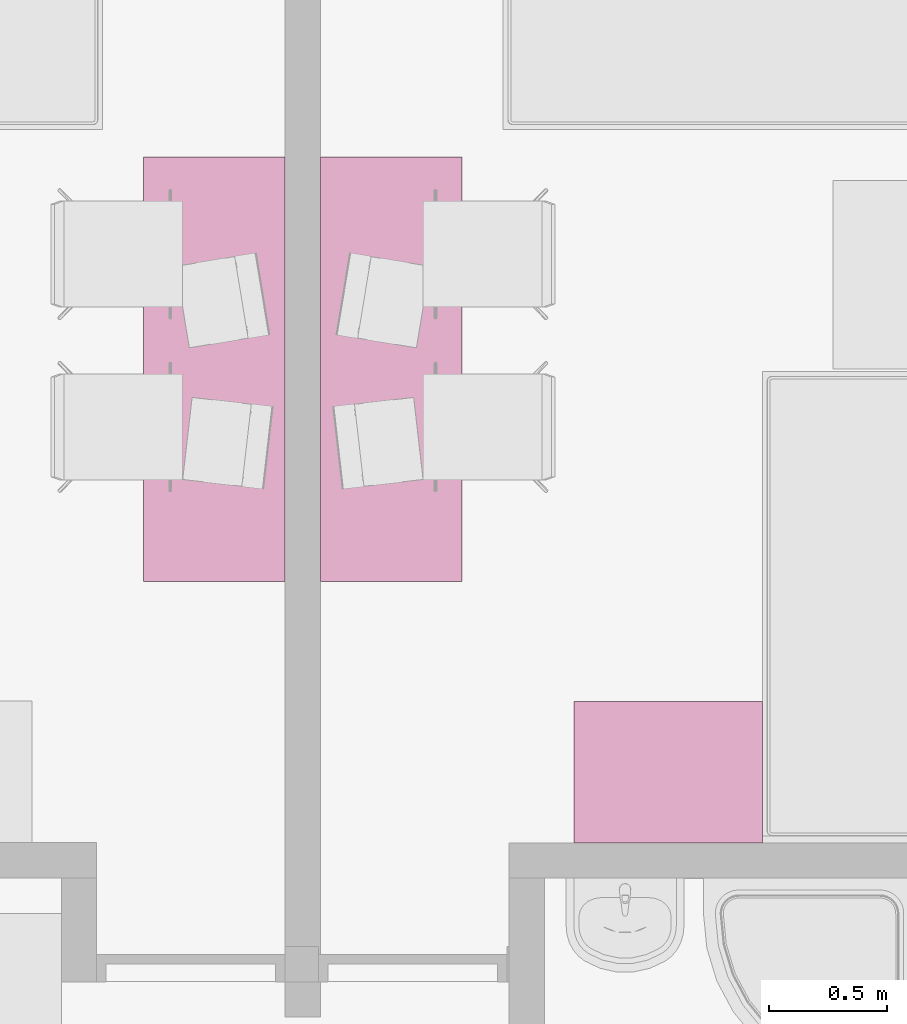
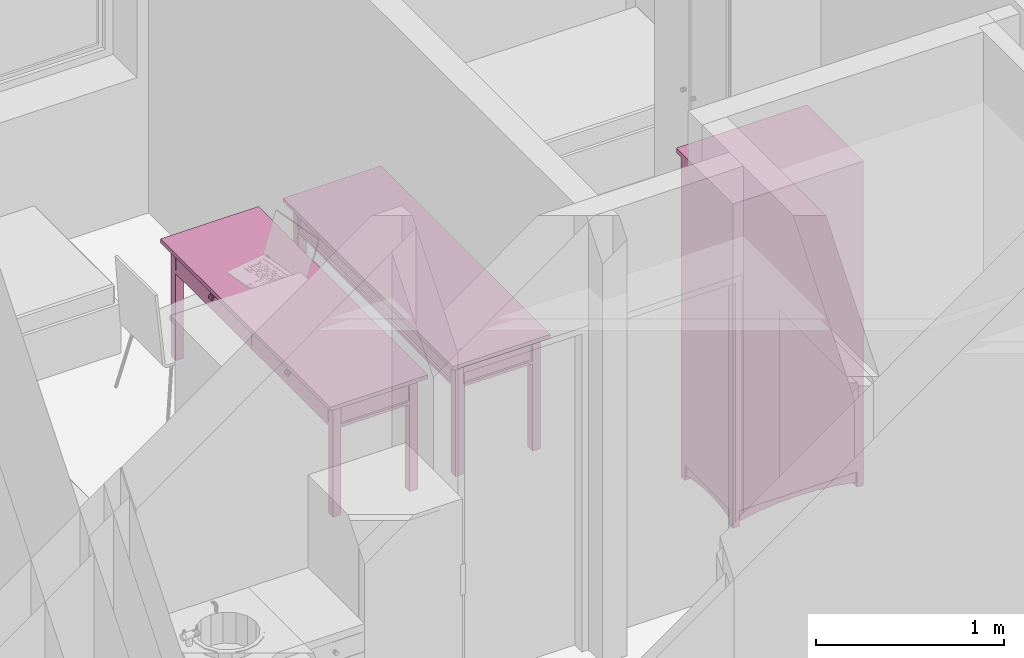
# One storey, part 134 of 165: 3 furnishings.
"""IFC2X3 building model written with IfcOpenShell, lengths in millimetres."""

from ifc_helpers import new_model, entity, si_unit, converted_unit, money_unit, direction, frame, origin_with_axes, place, context, subcontext, project, spatial, faceted_brep, source, transform, mapped, material, material_list, type_object, element, save


model = new_model("IFC2X3")

# Units and contexts
model_context = context("Model", 3, precision=1e-05, world=origin_with_axes(), true_north=direction((0.0, 1.0)))
body_context = subcontext(model_context, "Body", "Model", "MODEL_VIEW")
ifc_project = project(units=[si_unit("LENGTHUNIT", "METRE", prefix="MILLI"), si_unit("AREAUNIT", "SQUARE_METRE"), si_unit("VOLUMEUNIT", "CUBIC_METRE"), converted_unit("PLANEANGLEUNIT", "DEGREE", entity("IfcPlaneAngleMeasure", 0.0174532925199), si_unit("PLANEANGLEUNIT", "RADIAN"), dimensions=[0, 0, 0, 0, 0, 0, 0]), si_unit("SOLIDANGLEUNIT", "STERADIAN"), money_unit("USD"), converted_unit("TIMEUNIT", "Year", entity("IfcTimeMeasure", 31556926.0), si_unit("TIMEUNIT", "SECOND"), dimensions=[0, 0, 0, 0, 0, 0, 0]), si_unit("MASSUNIT", "GRAM"), si_unit("THERMODYNAMICTEMPERATUREUNIT", "DEGREE_CELSIUS"), si_unit("LUMINOUSINTENSITYUNIT", "LUMEN")], contexts=[model_context])

# Site, building, storey
site_placement = place(None, origin_with_axes())
site = spatial("IfcSite", under=ifc_project, at=site_placement, Name="Site", CompositionType="ELEMENT")
building_placement = place(site_placement, origin_with_axes())
building = spatial("IfcBuilding", under=site, at=building_placement, Name="Building", CompositionType="ELEMENT")
storey_placement = place(building_placement, frame((0.0, 0.0, 6300.0), z_axis=(0.0, 0.0, 1.0), x_axis=(1.0, 0.0, 0.0)))
storey = spatial("IfcBuildingStorey", under=building, at=storey_placement, Name="4KORRUS", CompositionType="ELEMENT", Elevation=6300.0)

# Furnishings
ifc_material = material(Name="Background")
ifc_material_list = material_list([ifc_material])
furnishing_element_type_1 = type_object("IfcFurnishingElementType", Name="Cupboard 19")
shared_shape_1 = source(origin_with_axes(), body_context, "Body", "Brep", [
    faceted_brep([(-780.0, 600.0, 120.0), (-780.0, 580.0, 120.0), (-780.0, 580.0, 2050.0), (-780.0, 600.0, 2050.0), (-20.0, 600.0, 120.0), (-20.0, 580.0, 120.0), (-20.0, 580.0, 2050.0), (-20.0, 600.0, 2050.0)], [[[0, 1, 2, 3]], [[0, 4, 5, 1]], [[1, 5, 6, 2]], [[3, 2, 6, 7]], [[4, 0, 3, 7]], [[5, 4, 7, 6]]]),
    faceted_brep([(0.0, 50.0, 100.0), (-20.0, 50.0, 100.0), (-20.0, 600.0, 100.0), (0.0, 600.0, 100.0), (0.0, 50.0, 2070.0), (-20.0, 50.0, 2070.0), (-20.0, 600.0, 2070.0), (0.0, 600.0, 2070.0)], [[[0, 1, 2, 3]], [[1, 0, 4, 5]], [[2, 1, 5, 6]], [[3, 2, 6, 7]], [[0, 3, 7, 4]], [[5, 4, 7, 6]]]),
    faceted_brep([(-780.0, 50.0, 100.0), (-800.0, 50.0, 100.0), (-800.0, 600.0, 100.0), (-780.0, 600.0, 100.0), (-780.0, 50.0, 2070.0), (-800.0, 50.0, 2070.0), (-800.0, 600.0, 2070.0), (-780.0, 600.0, 2070.0)], [[[0, 1, 2, 3]], [[1, 0, 4, 5]], [[2, 1, 5, 6]], [[3, 2, 6, 7]], [[0, 3, 7, 4]], [[5, 4, 7, 6]]]),
    faceted_brep([(-20.0, 50.0, 100.0), (-780.0, 50.0, 100.0), (-780.0, 600.0, 100.0), (-20.0, 600.0, 100.0), (-20.0, 50.0, 120.0), (-780.0, 50.0, 120.0), (-780.0, 600.0, 120.0), (-20.0, 600.0, 120.0)], [[[0, 1, 2, 3]], [[1, 0, 4, 5]], [[2, 1, 5, 6]], [[3, 2, 6, 7]], [[0, 3, 7, 4]], [[5, 4, 7, 6]]]),
    faceted_brep([(-20.0, 50.0, 2050.0), (-780.0, 50.0, 2050.0), (-780.0, 600.0, 2050.0), (-20.0, 600.0, 2050.0), (-20.0, 50.0, 2070.0), (-780.0, 50.0, 2070.0), (-780.0, 600.0, 2070.0), (-20.0, 600.0, 2070.0)], [[[0, 1, 2, 3]], [[1, 0, 4, 5]], [[2, 1, 5, 6]], [[3, 2, 6, 7]], [[0, 3, 7, 4]], [[5, 4, 7, 6]]]),
    faceted_brep([(0.0, 600.0, 2070.0), (0.0, 600.0, 2100.0), (0.0, 0.0, 2100.0), (0.0, 0.0, 2070.0), (-800.0, 600.0, 2070.0), (-800.0, 600.0, 2100.0), (-800.0, 0.0, 2100.0), (-800.0, 0.0, 2070.0)], [[[0, 1, 2, 3]], [[4, 5, 1, 0]], [[1, 5, 6, 2]], [[3, 2, 6, 7]], [[0, 3, 7, 4]], [[7, 6, 5, 4]]]),
    faceted_brep([(-760.0, 590.0, 25.0), (-640.962, 590.0, 45.8), (-640.962, 570.0, 45.8), (-760.0, 570.0, 25.0), (-760.0, 590.0, 100.0), (-40.0, 590.0, 100.0), (-40.0, 590.0, 25.0), (-159.038, 590.0, 45.8), (-279.23, 590.0, 58.32), (-400.0, 590.0, 62.5), (-520.77, 590.0, 58.32), (-520.77, 570.0, 58.32), (-400.0, 570.0, 62.5), (-279.23, 570.0, 58.32), (-159.038, 570.0, 45.8), (-40.0, 570.0, 25.0), (-40.0, 570.0, 100.0), (-760.0, 570.0, 100.0)], [[[0, 1, 2, 3]], [[0, 4, 5, 6, 7, 8, 9, 10, 1]], [[1, 10, 11, 2]], [[3, 2, 11, 12, 13, 14, 15, 16, 17]], [[4, 0, 3, 17]], [[5, 4, 17, 16]], [[6, 5, 16, 15]], [[7, 6, 15, 14]], [[8, 7, 14, 13]], [[9, 8, 13, 12]], [[10, 9, 12, 11]]]),
    faceted_brep([(-760.0, 80.0, 25.0), (-640.962, 80.0, 45.8), (-640.962, 60.0, 45.8), (-760.0, 60.0, 25.0), (-760.0, 80.0, 100.0), (-40.0, 80.0, 100.0), (-40.0, 80.0, 25.0), (-159.038, 80.0, 45.8), (-279.23, 80.0, 58.32), (-400.0, 80.0, 62.5), (-520.77, 80.0, 58.32), (-520.77, 60.0, 58.32), (-400.0, 60.0, 62.5), (-279.23, 60.0, 58.32), (-159.038, 60.0, 45.8), (-40.0, 60.0, 25.0), (-40.0, 60.0, 100.0), (-760.0, 60.0, 100.0)], [[[0, 1, 2, 3]], [[0, 4, 5, 6, 7, 8, 9, 10, 1]], [[1, 10, 11, 2]], [[3, 2, 11, 12, 13, 14, 15, 16, 17]], [[4, 0, 3, 17]], [[5, 4, 17, 16]], [[6, 5, 16, 15]], [[7, 6, 15, 14]], [[8, 7, 14, 13]], [[9, 8, 13, 12]], [[10, 9, 12, 11]]]),
    faceted_brep([(-790.0, 90.0, 25.0), (-790.0, 141.266, 38.072), (-770.0, 141.266, 38.072), (-770.0, 90.0, 25.0), (-790.0, 90.0, 100.0), (-790.0, 560.0, 100.0), (-790.0, 560.0, 25.0), (-790.0, 508.734, 38.072), (-790.0, 456.752, 47.92), (-790.0, 404.257, 54.508), (-790.0, 351.453, 57.808), (-790.0, 298.547, 57.808), (-790.0, 245.743, 54.508), (-790.0, 193.248, 47.92), (-770.0, 193.248, 47.92), (-770.0, 245.743, 54.508), (-770.0, 298.547, 57.808), (-770.0, 351.453, 57.808), (-770.0, 404.257, 54.508), (-770.0, 456.752, 47.92), (-770.0, 508.734, 38.072), (-770.0, 560.0, 25.0), (-770.0, 560.0, 100.0), (-770.0, 90.0, 100.0)], [[[0, 1, 2, 3]], [[0, 4, 5, 6, 7, 8, 9, 10, 11, 12, 13, 1]], [[1, 13, 14, 2]], [[3, 2, 14, 15, 16, 17, 18, 19, 20, 21, 22, 23]], [[4, 0, 3, 23]], [[5, 4, 23, 22]], [[6, 5, 22, 21]], [[7, 6, 21, 20]], [[8, 7, 20, 19]], [[9, 8, 19, 18]], [[10, 9, 18, 17]], [[11, 10, 17, 16]], [[12, 11, 16, 15]], [[13, 12, 15, 14]]]),
    faceted_brep([(-30.0, 90.0, 25.0), (-30.0, 141.266, 38.072), (-10.0, 141.266, 38.072), (-10.0, 90.0, 25.0), (-30.0, 90.0, 100.0), (-30.0, 560.0, 100.0), (-30.0, 560.0, 25.0), (-30.0, 508.734, 38.072), (-30.0, 456.752, 47.92), (-30.0, 404.257, 54.508), (-30.0, 351.453, 57.808), (-30.0, 298.547, 57.808), (-30.0, 245.743, 54.508), (-30.0, 193.248, 47.92), (-10.0, 193.248, 47.92), (-10.0, 245.743, 54.508), (-10.0, 298.547, 57.808), (-10.0, 351.453, 57.808), (-10.0, 404.257, 54.508), (-10.0, 456.752, 47.92), (-10.0, 508.734, 38.072), (-10.0, 560.0, 25.0), (-10.0, 560.0, 100.0), (-10.0, 90.0, 100.0)], [[[0, 1, 2, 3]], [[0, 4, 5, 6, 7, 8, 9, 10, 11, 12, 13, 1]], [[1, 13, 14, 2]], [[3, 2, 14, 15, 16, 17, 18, 19, 20, 21, 22, 23]], [[4, 0, 3, 23]], [[5, 4, 23, 22]], [[6, 5, 22, 21]], [[7, 6, 21, 20]], [[8, 7, 20, 19]], [[9, 8, 19, 18]], [[10, 9, 18, 17]], [[11, 10, 17, 16]], [[12, 11, 16, 15]], [[13, 12, 15, 14]]]),
    faceted_brep([(-760.0, 560.0, 0.0), (-760.0, 600.0, 0.0), (-760.0, 600.0, 100.0), (-760.0, 560.0, 100.0), (-800.0, 560.0, 0.0), (-800.0, 600.0, 0.0), (-800.0, 600.0, 100.0), (-800.0, 560.0, 100.0)], [[[0, 1, 2, 3]], [[0, 4, 5, 1]], [[1, 5, 6, 2]], [[3, 2, 6, 7]], [[4, 0, 3, 7]], [[5, 4, 7, 6]]]),
    faceted_brep([(0.0, 560.0, 0.0), (0.0, 600.0, 0.0), (0.0, 600.0, 100.0), (0.0, 560.0, 100.0), (-40.0, 560.0, 0.0), (-40.0, 600.0, 0.0), (-40.0, 600.0, 100.0), (-40.0, 560.0, 100.0)], [[[0, 1, 2, 3]], [[0, 4, 5, 1]], [[1, 5, 6, 2]], [[3, 2, 6, 7]], [[4, 0, 3, 7]], [[5, 4, 7, 6]]]),
    faceted_brep([(-760.0, 50.0, 0.0), (-760.0, 90.0, 0.0), (-760.0, 90.0, 100.0), (-760.0, 50.0, 100.0), (-800.0, 50.0, 0.0), (-800.0, 90.0, 0.0), (-800.0, 90.0, 100.0), (-800.0, 50.0, 100.0)], [[[0, 1, 2, 3]], [[0, 4, 5, 1]], [[1, 5, 6, 2]], [[3, 2, 6, 7]], [[4, 0, 3, 7]], [[5, 4, 7, 6]]]),
    faceted_brep([(0.0, 50.0, 0.0), (0.0, 90.0, 0.0), (0.0, 90.0, 100.0), (0.0, 50.0, 100.0), (-40.0, 50.0, 0.0), (-40.0, 90.0, 0.0), (-40.0, 90.0, 100.0), (-40.0, 50.0, 100.0)], [[[0, 1, 2, 3]], [[0, 4, 5, 1]], [[1, 5, 6, 2]], [[3, 2, 6, 7]], [[4, 0, 3, 7]], [[5, 4, 7, 6]]]),
    faceted_brep([(-780.0, 580.0, 587.5), (-780.0, 50.0, 587.5), (-780.0, 50.0, 607.5), (-780.0, 580.0, 607.5), (-20.0, 580.0, 587.5), (-20.0, 50.0, 587.5), (-20.0, 50.0, 607.5), (-20.0, 580.0, 607.5)], [[[0, 1, 2, 3]], [[0, 4, 5, 1]], [[1, 5, 6, 2]], [[3, 2, 6, 7]], [[4, 0, 3, 7]], [[5, 4, 7, 6]]]),
    faceted_brep([(-780.0, 580.0, 1075.0), (-780.0, 50.0, 1075.0), (-780.0, 50.0, 1095.0), (-780.0, 580.0, 1095.0), (-20.0, 580.0, 1075.0), (-20.0, 50.0, 1075.0), (-20.0, 50.0, 1095.0), (-20.0, 580.0, 1095.0)], [[[0, 1, 2, 3]], [[0, 4, 5, 1]], [[1, 5, 6, 2]], [[3, 2, 6, 7]], [[4, 0, 3, 7]], [[5, 4, 7, 6]]]),
    faceted_brep([(-780.0, 580.0, 1562.5), (-780.0, 50.0, 1562.5), (-780.0, 50.0, 1582.5), (-780.0, 580.0, 1582.5), (-20.0, 580.0, 1562.5), (-20.0, 50.0, 1562.5), (-20.0, 50.0, 1582.5), (-20.0, 580.0, 1582.5)], [[[0, 1, 2, 3]], [[0, 4, 5, 1]], [[1, 5, 6, 2]], [[3, 2, 6, 7]], [[4, 0, 3, 7]], [[5, 4, 7, 6]]]),
    faceted_brep([(-789.5, 50.0, 110.5), (-789.5, 50.0, 2059.5), (-400.5, 50.0, 2059.5), (-400.5, 50.0, 110.5), (-789.5, 40.0, 110.5), (-789.5, 40.0, 2059.5), (-400.5, 40.0, 2059.5), (-400.5, 40.0, 110.5), (-779.5, 30.0, 120.5), (-779.5, 30.0, 2049.5), (-410.5, 30.0, 2049.5), (-410.5, 30.0, 120.5)], [[[0, 1, 2, 3]], [[1, 0, 4, 5]], [[2, 1, 5, 6]], [[3, 2, 6, 7]], [[0, 3, 7, 4]], [[5, 4, 8, 9]], [[6, 5, 9, 10]], [[7, 6, 10, 11]], [[4, 7, 11, 8]], [[10, 9, 8, 11]]]),
    faceted_brep([(-399.5, 50.0, 110.5), (-399.5, 50.0, 2059.5), (-10.5, 50.0, 2059.5), (-10.5, 50.0, 110.5), (-399.5, 40.0, 110.5), (-399.5, 40.0, 2059.5), (-10.5, 40.0, 2059.5), (-10.5, 40.0, 110.5), (-389.5, 30.0, 120.5), (-389.5, 30.0, 2049.5), (-20.5, 30.0, 2049.5), (-20.5, 30.0, 120.5)], [[[0, 1, 2, 3]], [[1, 0, 4, 5]], [[2, 1, 5, 6]], [[3, 2, 6, 7]], [[0, 3, 7, 4]], [[5, 4, 8, 9]], [[6, 5, 9, 10]], [[7, 6, 10, 11]], [[4, 7, 11, 8]], [[10, 9, 8, 11]]]),
    faceted_brep([(-339.608, 30.0, 954.0), (-344.0, 30.0, 949.608), (-350.0, 30.0, 948.0), (-356.0, 30.0, 949.608), (-360.392, 30.0, 954.0), (-362.0, 30.0, 960.0), (-360.392, 30.0, 966.0), (-356.0, 30.0, 970.392), (-350.0, 30.0, 972.0), (-344.0, 30.0, 970.392), (-339.608, 30.0, 966.0), (-338.0, 30.0, 960.0), (-339.608, 5.0, 954.0), (-344.0, 5.0, 949.608), (-350.0, 5.0, 948.0), (-356.0, 5.0, 949.608), (-360.392, 5.0, 954.0), (-362.0, 5.0, 960.0), (-360.392, 5.0, 966.0), (-356.0, 5.0, 970.392), (-350.0, 5.0, 972.0), (-344.0, 5.0, 970.392), (-339.608, 5.0, 966.0), (-338.0, 5.0, 960.0)], [[[0, 1, 2, 3, 4, 5, 6, 7, 8, 9, 10, 11]], [[1, 0, 12, 13]], [[2, 1, 13, 14]], [[3, 2, 14, 15]], [[4, 3, 15, 16]], [[5, 4, 16, 17]], [[6, 5, 17, 18]], [[7, 6, 18, 19]], [[8, 7, 19, 20]], [[9, 8, 20, 21]], [[10, 9, 21, 22]], [[11, 10, 22, 23]], [[0, 11, 23, 12]], [[12, 23, 22, 21, 20, 19, 18, 17, 16, 15, 14, 13]]]),
    faceted_brep([(-460.392, 30.0, 954.0), (-462.0, 30.0, 960.0), (-460.392, 30.0, 966.0), (-456.0, 30.0, 970.392), (-450.0, 30.0, 972.0), (-444.0, 30.0, 970.392), (-439.608, 30.0, 966.0), (-438.0, 30.0, 960.0), (-439.608, 30.0, 954.0), (-444.0, 30.0, 949.608), (-450.0, 30.0, 948.0), (-456.0, 30.0, 949.608), (-460.392, 5.0, 954.0), (-462.0, 5.0, 960.0), (-460.392, 5.0, 966.0), (-456.0, 5.0, 970.392), (-450.0, 5.0, 972.0), (-444.0, 5.0, 970.392), (-439.608, 5.0, 966.0), (-438.0, 5.0, 960.0), (-439.608, 5.0, 954.0), (-444.0, 5.0, 949.608), (-450.0, 5.0, 948.0), (-456.0, 5.0, 949.608)], [[[0, 1, 2, 3, 4, 5, 6, 7, 8, 9, 10, 11]], [[0, 12, 13, 1]], [[1, 13, 14, 2]], [[2, 14, 15, 3]], [[3, 15, 16, 4]], [[4, 16, 17, 5]], [[5, 17, 18, 6]], [[6, 18, 19, 7]], [[7, 19, 20, 8]], [[8, 20, 21, 9]], [[9, 21, 22, 10]], [[10, 22, 23, 11]], [[11, 23, 12, 0]], [[12, 23, 22, 21, 20, 19, 18, 17, 16, 15, 14, 13]]]),
])
furnishing_1_placement = place(storey_placement, frame((4009.70329669, -8617.37850445, 0.0), z_axis=(0.0, 0.0, 1.0), x_axis=(-1.0, 0.0, 0.0)))
element("IfcFurnishingElement", 1, at=furnishing_1_placement, inside=storey, type_object=furnishing_element_type_1, material=ifc_material_list, Name="FU - 014", context=body_context, shape_type="MappedRepresentation", body=[
    mapped(shared_shape_1, transform((0.0, 0.0, 0.0))),
])
furnishing_element_type_2 = type_object("IfcFurnishingElementType", Name="Rectangular Table 01 19")
shared_shape_2 = source(origin_with_axes(), body_context, "Body", "Brep", [
    faceted_brep([(-90.0, 40.0, 0.0), (-90.0, 90.0, 0.0), (-40.0, 90.0, 0.0), (-40.0, 40.0, 0.0), (-90.0, 40.0, 725.0), (-90.0, 90.0, 725.0), (-40.0, 90.0, 725.0), (-40.0, 40.0, 725.0)], [[[0, 1, 2, 3]], [[0, 4, 5, 1]], [[1, 5, 6, 2]], [[2, 6, 7, 3]], [[3, 7, 4, 0]], [[7, 6, 5, 4]]]),
    faceted_brep([(-1760.0, 40.0, 0.0), (-1760.0, 90.0, 0.0), (-1710.0, 90.0, 0.0), (-1710.0, 40.0, 0.0), (-1760.0, 40.0, 725.0), (-1760.0, 90.0, 725.0), (-1710.0, 90.0, 725.0), (-1710.0, 40.0, 725.0)], [[[0, 1, 2, 3]], [[0, 4, 5, 1]], [[1, 5, 6, 2]], [[2, 6, 7, 3]], [[3, 7, 4, 0]], [[7, 6, 5, 4]]]),
    faceted_brep([(-90.0, 510.0, 0.0), (-90.0, 560.0, 0.0), (-40.0, 560.0, 0.0), (-40.0, 510.0, 0.0), (-90.0, 510.0, 725.0), (-90.0, 560.0, 725.0), (-40.0, 560.0, 725.0), (-40.0, 510.0, 725.0)], [[[0, 1, 2, 3]], [[0, 4, 5, 1]], [[1, 5, 6, 2]], [[2, 6, 7, 3]], [[3, 7, 4, 0]], [[7, 6, 5, 4]]]),
    faceted_brep([(-1760.0, 510.0, 0.0), (-1760.0, 560.0, 0.0), (-1710.0, 560.0, 0.0), (-1710.0, 510.0, 0.0), (-1760.0, 510.0, 725.0), (-1760.0, 560.0, 725.0), (-1710.0, 560.0, 725.0), (-1710.0, 510.0, 725.0)], [[[0, 1, 2, 3]], [[0, 4, 5, 1]], [[1, 5, 6, 2]], [[2, 6, 7, 3]], [[3, 7, 4, 0]], [[7, 6, 5, 4]]]),
    faceted_brep([(-1760.0, 40.0, 565.0), (-1760.0, 560.0, 565.0), (-40.0, 560.0, 565.0), (-40.0, 40.0, 565.0), (-1760.0, 40.0, 585.0), (-1760.0, 560.0, 585.0), (-40.0, 560.0, 585.0), (-40.0, 40.0, 585.0)], [[[0, 1, 2, 3]], [[0, 4, 5, 1]], [[1, 5, 6, 2]], [[2, 6, 7, 3]], [[3, 7, 4, 0]], [[7, 6, 5, 4]]]),
    faceted_brep([(-1710.0, 52.5, 585.0), (-1710.0, 77.5, 585.0), (-90.0, 77.5, 585.0), (-90.0, 52.5, 585.0), (-1710.0, 52.5, 745.0), (-1710.0, 77.5, 745.0), (-90.0, 77.5, 745.0), (-90.0, 52.5, 745.0)], [[[0, 1, 2, 3]], [[0, 4, 5, 1]], [[1, 5, 6, 2]], [[2, 6, 7, 3]], [[3, 7, 4, 0]], [[7, 6, 5, 4]]]),
    faceted_brep([(-77.5, 90.0, 585.0), (-77.5, 510.0, 585.0), (-52.5, 510.0, 585.0), (-52.5, 90.0, 585.0), (-77.5, 90.0, 745.0), (-77.5, 510.0, 745.0), (-52.5, 510.0, 745.0), (-52.5, 90.0, 745.0)], [[[0, 1, 2, 3]], [[0, 4, 5, 1]], [[1, 5, 6, 2]], [[2, 6, 7, 3]], [[3, 7, 4, 0]], [[7, 6, 5, 4]]]),
    faceted_brep([(-90.0, 547.5, 585.0), (-90.0, 522.5, 585.0), (-1710.0, 522.5, 585.0), (-1710.0, 547.5, 585.0), (-90.0, 547.5, 745.0), (-90.0, 522.5, 745.0), (-1710.0, 522.5, 745.0), (-1710.0, 547.5, 745.0)], [[[0, 1, 2, 3]], [[0, 4, 5, 1]], [[1, 5, 6, 2]], [[2, 6, 7, 3]], [[3, 7, 4, 0]], [[7, 6, 5, 4]]]),
    faceted_brep([(-1722.5, 510.0, 585.0), (-1722.5, 90.0, 585.0), (-1747.5, 90.0, 585.0), (-1747.5, 510.0, 585.0), (-1722.5, 510.0, 745.0), (-1722.5, 90.0, 745.0), (-1747.5, 90.0, 745.0), (-1747.5, 510.0, 745.0)], [[[0, 1, 2, 3]], [[0, 4, 5, 1]], [[1, 5, 6, 2]], [[2, 6, 7, 3]], [[3, 7, 4, 0]], [[7, 6, 5, 4]]]),
    faceted_brep([(-897.5, 40.0, 585.0), (-897.5, 60.0, 585.0), (-95.0, 60.0, 585.0), (-95.0, 40.0, 585.0), (-897.5, 40.0, 745.0), (-897.5, 60.0, 745.0), (-95.0, 60.0, 745.0), (-95.0, 40.0, 745.0)], [[[0, 1, 2, 3]], [[0, 4, 5, 1]], [[1, 5, 6, 2]], [[2, 6, 7, 3]], [[3, 7, 4, 0]], [[7, 6, 5, 4]]]),
    faceted_brep([(-1705.0, 40.0, 585.0), (-1705.0, 60.0, 585.0), (-902.5, 60.0, 585.0), (-902.5, 40.0, 585.0), (-1705.0, 40.0, 745.0), (-1705.0, 60.0, 745.0), (-902.5, 60.0, 745.0), (-902.5, 40.0, 745.0)], [[[0, 1, 2, 3]], [[0, 4, 5, 1]], [[1, 5, 6, 2]], [[2, 6, 7, 3]], [[3, 7, 4, 0]], [[7, 6, 5, 4]]]),
    faceted_brep([(-504.91, 40.0, 660.0), (-506.25, 40.0, 665.0), (-504.91, 40.0, 670.0), (-501.25, 40.0, 673.66), (-496.25, 40.0, 675.0), (-491.25, 40.0, 673.66), (-487.59, 40.0, 670.0), (-486.25, 40.0, 665.0), (-487.59, 40.0, 660.0), (-491.25, 40.0, 656.34), (-496.25, 40.0, 655.0), (-501.25, 40.0, 656.34), (-504.91, 25.0, 660.0), (-506.25, 25.0, 665.0), (-504.91, 25.0, 670.0), (-501.25, 25.0, 673.66), (-496.25, 25.0, 675.0), (-491.25, 25.0, 673.66), (-487.59, 25.0, 670.0), (-486.25, 25.0, 665.0), (-487.59, 25.0, 660.0), (-491.25, 25.0, 656.34), (-496.25, 25.0, 655.0), (-501.25, 25.0, 656.34)], [[[0, 1, 2, 3, 4, 5, 6, 7, 8, 9, 10, 11]], [[0, 12, 13, 1]], [[1, 13, 14, 2]], [[2, 14, 15, 3]], [[3, 15, 16, 4]], [[4, 16, 17, 5]], [[5, 17, 18, 6]], [[6, 18, 19, 7]], [[7, 19, 20, 8]], [[8, 20, 21, 9]], [[9, 21, 22, 10]], [[10, 22, 23, 11]], [[11, 23, 12, 0]], [[12, 23, 22, 21, 20, 19, 18, 17, 16, 15, 14, 13]]]),
    faceted_brep([(-506.25, 12.01, 665.0), (-504.91, 12.01, 660.0), (-496.25, 10.0, 665.0), (-513.571, 17.5, 665.0), (-511.25, 17.5, 656.34), (-501.25, 12.01, 656.34), (-504.91, 12.01, 670.0), (-516.25, 25.0, 665.0), (-513.571, 25.0, 655.0), (-504.91, 17.5, 650.0), (-511.25, 17.5, 673.66), (-496.25, 12.01, 655.0), (-501.25, 12.01, 673.66), (-513.571, 25.0, 675.0), (-506.25, 25.0, 682.321), (-496.25, 25.0, 685.0), (-486.25, 25.0, 682.321), (-478.929, 25.0, 675.0), (-476.25, 25.0, 665.0), (-478.929, 25.0, 655.0), (-486.25, 25.0, 647.679), (-496.25, 25.0, 645.0), (-506.25, 25.0, 647.679), (-496.25, 17.5, 647.679), (-504.91, 17.5, 680.0), (-491.25, 12.01, 656.34), (-496.25, 12.01, 675.0), (-496.25, 17.5, 682.321), (-487.59, 17.5, 680.0), (-481.25, 17.5, 673.66), (-478.929, 17.5, 665.0), (-481.25, 17.5, 656.34), (-487.59, 17.5, 650.0), (-487.59, 12.01, 660.0), (-491.25, 12.01, 673.66), (-487.59, 12.01, 670.0), (-486.25, 12.01, 665.0)], [[[0, 1, 2]], [[3, 4, 1, 0]], [[1, 5, 2]], [[6, 0, 2]], [[7, 8, 4, 3]], [[4, 9, 5, 1]], [[10, 3, 0, 6]], [[5, 11, 2]], [[12, 6, 2]], [[8, 7, 13, 14, 15, 16, 17, 18, 19, 20, 21, 22]], [[8, 22, 9, 4]], [[13, 7, 3, 10]], [[9, 23, 11, 5]], [[24, 10, 6, 12]], [[11, 25, 2]], [[26, 12, 2]], [[14, 13, 10, 24]], [[15, 14, 24, 27]], [[16, 15, 27, 28]], [[17, 16, 28, 29]], [[18, 17, 29, 30]], [[19, 18, 30, 31]], [[20, 19, 31, 32]], [[21, 20, 32, 23]], [[22, 21, 23, 9]], [[23, 32, 25, 11]], [[27, 24, 12, 26]], [[25, 33, 2]], [[34, 26, 2]], [[28, 27, 26, 34]], [[29, 28, 34, 35]], [[30, 29, 35, 36]], [[31, 30, 36, 33]], [[32, 31, 33, 25]], [[33, 36, 2]], [[35, 34, 2]], [[36, 35, 2]]]),
    faceted_brep([(-1312.41, 40.0, 660.0), (-1313.75, 40.0, 665.0), (-1312.41, 40.0, 670.0), (-1308.75, 40.0, 673.66), (-1303.75, 40.0, 675.0), (-1298.75, 40.0, 673.66), (-1295.09, 40.0, 670.0), (-1293.75, 40.0, 665.0), (-1295.09, 40.0, 660.0), (-1298.75, 40.0, 656.34), (-1303.75, 40.0, 655.0), (-1308.75, 40.0, 656.34), (-1312.41, 25.0, 660.0), (-1313.75, 25.0, 665.0), (-1312.41, 25.0, 670.0), (-1308.75, 25.0, 673.66), (-1303.75, 25.0, 675.0), (-1298.75, 25.0, 673.66), (-1295.09, 25.0, 670.0), (-1293.75, 25.0, 665.0), (-1295.09, 25.0, 660.0), (-1298.75, 25.0, 656.34), (-1303.75, 25.0, 655.0), (-1308.75, 25.0, 656.34)], [[[0, 1, 2, 3, 4, 5, 6, 7, 8, 9, 10, 11]], [[0, 12, 13, 1]], [[1, 13, 14, 2]], [[2, 14, 15, 3]], [[3, 15, 16, 4]], [[4, 16, 17, 5]], [[5, 17, 18, 6]], [[6, 18, 19, 7]], [[7, 19, 20, 8]], [[8, 20, 21, 9]], [[9, 21, 22, 10]], [[10, 22, 23, 11]], [[11, 23, 12, 0]], [[12, 23, 22, 21, 20, 19, 18, 17, 16, 15, 14, 13]]]),
    faceted_brep([(-1313.75, 12.01, 665.0), (-1312.41, 12.01, 660.0), (-1303.75, 10.0, 665.0), (-1321.071, 17.5, 665.0), (-1318.75, 17.5, 656.34), (-1308.75, 12.01, 656.34), (-1312.41, 12.01, 670.0), (-1323.75, 25.0, 665.0), (-1321.071, 25.0, 655.0), (-1312.41, 17.5, 650.0), (-1318.75, 17.5, 673.66), (-1303.75, 12.01, 655.0), (-1308.75, 12.01, 673.66), (-1321.071, 25.0, 675.0), (-1313.75, 25.0, 682.321), (-1303.75, 25.0, 685.0), (-1293.75, 25.0, 682.321), (-1286.429, 25.0, 675.0), (-1283.75, 25.0, 665.0), (-1286.429, 25.0, 655.0), (-1293.75, 25.0, 647.679), (-1303.75, 25.0, 645.0), (-1313.75, 25.0, 647.679), (-1303.75, 17.5, 647.679), (-1312.41, 17.5, 680.0), (-1298.75, 12.01, 656.34), (-1303.75, 12.01, 675.0), (-1303.75, 17.5, 682.321), (-1295.09, 17.5, 680.0), (-1288.75, 17.5, 673.66), (-1286.429, 17.5, 665.0), (-1288.75, 17.5, 656.34), (-1295.09, 17.5, 650.0), (-1295.09, 12.01, 660.0), (-1298.75, 12.01, 673.66), (-1295.09, 12.01, 670.0), (-1293.75, 12.01, 665.0)], [[[0, 1, 2]], [[3, 4, 1, 0]], [[1, 5, 2]], [[6, 0, 2]], [[7, 8, 4, 3]], [[4, 9, 5, 1]], [[10, 3, 0, 6]], [[5, 11, 2]], [[12, 6, 2]], [[8, 7, 13, 14, 15, 16, 17, 18, 19, 20, 21, 22]], [[8, 22, 9, 4]], [[13, 7, 3, 10]], [[9, 23, 11, 5]], [[24, 10, 6, 12]], [[11, 25, 2]], [[26, 12, 2]], [[14, 13, 10, 24]], [[15, 14, 24, 27]], [[16, 15, 27, 28]], [[17, 16, 28, 29]], [[18, 17, 29, 30]], [[19, 18, 30, 31]], [[20, 19, 31, 32]], [[21, 20, 32, 23]], [[22, 21, 23, 9]], [[23, 32, 25, 11]], [[27, 24, 12, 26]], [[25, 33, 2]], [[34, 26, 2]], [[28, 27, 26, 34]], [[29, 28, 34, 35]], [[30, 29, 35, 36]], [[31, 30, 36, 33]], [[32, 31, 33, 25]], [[33, 36, 2]], [[35, 34, 2]], [[36, 35, 2]]]),
    faceted_brep([(-1800.0, 0.0, 725.0), (-1800.0, 600.0, 725.0), (0.0, 600.0, 725.0), (0.0, 0.0, 725.0), (-1800.0, 0.0, 750.0), (-1800.0, 600.0, 750.0), (0.0, 600.0, 750.0), (0.0, 0.0, 750.0)], [[[0, 1, 2, 3]], [[0, 4, 5, 1]], [[1, 5, 6, 2]], [[2, 6, 7, 3]], [[3, 7, 4, 0]], [[7, 6, 5, 4]]]),
])
furnishing_2_placement = place(storey_placement, frame((3535.15011628, -6307.26959818, 0.0), z_axis=(0.0, 0.0, 1.0), x_axis=(0.0, 1.0, 0.0)))
element("IfcFurnishingElement", 2, at=furnishing_2_placement, inside=storey, type_object=furnishing_element_type_2, material=ifc_material_list, Name="FU - 011", context=body_context, shape_type="MappedRepresentation", body=[
    mapped(shared_shape_2, transform((0.0, 0.0, 0.0))),
])
shared_shape_3 = source(origin_with_axes(), body_context, "Body", "Brep", [
    faceted_brep([(90.0, 40.0, 0.0), (40.0, 40.0, 0.0), (40.0, 90.0, 0.0), (90.0, 90.0, 0.0), (90.0, 40.0, 725.0), (40.0, 40.0, 725.0), (40.0, 90.0, 725.0), (90.0, 90.0, 725.0)], [[[0, 1, 2, 3]], [[1, 0, 4, 5]], [[2, 1, 5, 6]], [[3, 2, 6, 7]], [[0, 3, 7, 4]], [[5, 4, 7, 6]]]),
    faceted_brep([(1760.0, 40.0, 0.0), (1710.0, 40.0, 0.0), (1710.0, 90.0, 0.0), (1760.0, 90.0, 0.0), (1760.0, 40.0, 725.0), (1710.0, 40.0, 725.0), (1710.0, 90.0, 725.0), (1760.0, 90.0, 725.0)], [[[0, 1, 2, 3]], [[1, 0, 4, 5]], [[2, 1, 5, 6]], [[3, 2, 6, 7]], [[0, 3, 7, 4]], [[5, 4, 7, 6]]]),
    faceted_brep([(90.0, 510.0, 0.0), (40.0, 510.0, 0.0), (40.0, 560.0, 0.0), (90.0, 560.0, 0.0), (90.0, 510.0, 725.0), (40.0, 510.0, 725.0), (40.0, 560.0, 725.0), (90.0, 560.0, 725.0)], [[[0, 1, 2, 3]], [[1, 0, 4, 5]], [[2, 1, 5, 6]], [[3, 2, 6, 7]], [[0, 3, 7, 4]], [[5, 4, 7, 6]]]),
    faceted_brep([(1760.0, 510.0, 0.0), (1710.0, 510.0, 0.0), (1710.0, 560.0, 0.0), (1760.0, 560.0, 0.0), (1760.0, 510.0, 725.0), (1710.0, 510.0, 725.0), (1710.0, 560.0, 725.0), (1760.0, 560.0, 725.0)], [[[0, 1, 2, 3]], [[1, 0, 4, 5]], [[2, 1, 5, 6]], [[3, 2, 6, 7]], [[0, 3, 7, 4]], [[5, 4, 7, 6]]]),
    faceted_brep([(1760.0, 40.0, 565.0), (40.0, 40.0, 565.0), (40.0, 560.0, 565.0), (1760.0, 560.0, 565.0), (1760.0, 40.0, 585.0), (40.0, 40.0, 585.0), (40.0, 560.0, 585.0), (1760.0, 560.0, 585.0)], [[[0, 1, 2, 3]], [[1, 0, 4, 5]], [[2, 1, 5, 6]], [[3, 2, 6, 7]], [[0, 3, 7, 4]], [[5, 4, 7, 6]]]),
    faceted_brep([(1710.0, 52.5, 585.0), (90.0, 52.5, 585.0), (90.0, 77.5, 585.0), (1710.0, 77.5, 585.0), (1710.0, 52.5, 745.0), (90.0, 52.5, 745.0), (90.0, 77.5, 745.0), (1710.0, 77.5, 745.0)], [[[0, 1, 2, 3]], [[1, 0, 4, 5]], [[2, 1, 5, 6]], [[3, 2, 6, 7]], [[0, 3, 7, 4]], [[5, 4, 7, 6]]]),
    faceted_brep([(77.5, 90.0, 585.0), (52.5, 90.0, 585.0), (52.5, 510.0, 585.0), (77.5, 510.0, 585.0), (77.5, 90.0, 745.0), (52.5, 90.0, 745.0), (52.5, 510.0, 745.0), (77.5, 510.0, 745.0)], [[[0, 1, 2, 3]], [[1, 0, 4, 5]], [[2, 1, 5, 6]], [[3, 2, 6, 7]], [[0, 3, 7, 4]], [[5, 4, 7, 6]]]),
    faceted_brep([(90.0, 547.5, 585.0), (1710.0, 547.5, 585.0), (1710.0, 522.5, 585.0), (90.0, 522.5, 585.0), (90.0, 547.5, 745.0), (1710.0, 547.5, 745.0), (1710.0, 522.5, 745.0), (90.0, 522.5, 745.0)], [[[0, 1, 2, 3]], [[1, 0, 4, 5]], [[2, 1, 5, 6]], [[3, 2, 6, 7]], [[0, 3, 7, 4]], [[5, 4, 7, 6]]]),
    faceted_brep([(1722.5, 510.0, 585.0), (1747.5, 510.0, 585.0), (1747.5, 90.0, 585.0), (1722.5, 90.0, 585.0), (1722.5, 510.0, 745.0), (1747.5, 510.0, 745.0), (1747.5, 90.0, 745.0), (1722.5, 90.0, 745.0)], [[[0, 1, 2, 3]], [[1, 0, 4, 5]], [[2, 1, 5, 6]], [[3, 2, 6, 7]], [[0, 3, 7, 4]], [[5, 4, 7, 6]]]),
    faceted_brep([(897.5, 40.0, 585.0), (95.0, 40.0, 585.0), (95.0, 60.0, 585.0), (897.5, 60.0, 585.0), (897.5, 40.0, 745.0), (95.0, 40.0, 745.0), (95.0, 60.0, 745.0), (897.5, 60.0, 745.0)], [[[0, 1, 2, 3]], [[1, 0, 4, 5]], [[2, 1, 5, 6]], [[3, 2, 6, 7]], [[0, 3, 7, 4]], [[5, 4, 7, 6]]]),
    faceted_brep([(1705.0, 40.0, 585.0), (902.5, 40.0, 585.0), (902.5, 60.0, 585.0), (1705.0, 60.0, 585.0), (1705.0, 40.0, 745.0), (902.5, 40.0, 745.0), (902.5, 60.0, 745.0), (1705.0, 60.0, 745.0)], [[[0, 1, 2, 3]], [[1, 0, 4, 5]], [[2, 1, 5, 6]], [[3, 2, 6, 7]], [[0, 3, 7, 4]], [[5, 4, 7, 6]]]),
    faceted_brep([(504.91, 40.0, 660.0), (501.25, 40.0, 656.34), (496.25, 40.0, 655.0), (491.25, 40.0, 656.34), (487.59, 40.0, 660.0), (486.25, 40.0, 665.0), (487.59, 40.0, 670.0), (491.25, 40.0, 673.66), (496.25, 40.0, 675.0), (501.25, 40.0, 673.66), (504.91, 40.0, 670.0), (506.25, 40.0, 665.0), (504.91, 25.0, 660.0), (501.25, 25.0, 656.34), (496.25, 25.0, 655.0), (491.25, 25.0, 656.34), (487.59, 25.0, 660.0), (486.25, 25.0, 665.0), (487.59, 25.0, 670.0), (491.25, 25.0, 673.66), (496.25, 25.0, 675.0), (501.25, 25.0, 673.66), (504.91, 25.0, 670.0), (506.25, 25.0, 665.0)], [[[0, 1, 2, 3, 4, 5, 6, 7, 8, 9, 10, 11]], [[1, 0, 12, 13]], [[2, 1, 13, 14]], [[3, 2, 14, 15]], [[4, 3, 15, 16]], [[5, 4, 16, 17]], [[6, 5, 17, 18]], [[7, 6, 18, 19]], [[8, 7, 19, 20]], [[9, 8, 20, 21]], [[10, 9, 21, 22]], [[11, 10, 22, 23]], [[0, 11, 23, 12]], [[12, 23, 22, 21, 20, 19, 18, 17, 16, 15, 14, 13]]]),
    faceted_brep([(506.25, 12.01, 665.0), (496.25, 10.0, 665.0), (504.91, 12.01, 660.0), (504.91, 12.01, 670.0), (501.25, 12.01, 656.34), (513.571, 17.5, 665.0), (511.25, 17.5, 656.34), (501.25, 12.01, 673.66), (511.25, 17.5, 673.66), (496.25, 12.01, 655.0), (504.91, 17.5, 650.0), (516.25, 25.0, 665.0), (513.571, 25.0, 655.0), (496.25, 12.01, 675.0), (504.91, 17.5, 680.0), (513.571, 25.0, 675.0), (491.25, 12.01, 656.34), (496.25, 17.5, 647.679), (506.25, 25.0, 647.679), (496.25, 25.0, 645.0), (486.25, 25.0, 647.679), (478.929, 25.0, 655.0), (476.25, 25.0, 665.0), (478.929, 25.0, 675.0), (486.25, 25.0, 682.321), (496.25, 25.0, 685.0), (506.25, 25.0, 682.321), (491.25, 12.01, 673.66), (496.25, 17.5, 682.321), (487.59, 12.01, 660.0), (487.59, 17.5, 650.0), (481.25, 17.5, 656.34), (478.929, 17.5, 665.0), (481.25, 17.5, 673.66), (487.59, 17.5, 680.0), (487.59, 12.01, 670.0), (486.25, 12.01, 665.0)], [[[0, 1, 2]], [[3, 1, 0]], [[2, 1, 4]], [[5, 0, 2, 6]], [[7, 1, 3]], [[8, 3, 0, 5]], [[4, 1, 9]], [[6, 2, 4, 10]], [[11, 5, 6, 12]], [[13, 1, 7]], [[14, 7, 3, 8]], [[15, 8, 5, 11]], [[9, 1, 16]], [[10, 4, 9, 17]], [[12, 6, 10, 18]], [[12, 18, 19, 20, 21, 22, 23, 24, 25, 26, 15, 11]], [[27, 1, 13]], [[28, 13, 7, 14]], [[26, 14, 8, 15]], [[16, 1, 29]], [[17, 9, 16, 30]], [[18, 10, 17, 19]], [[19, 17, 30, 20]], [[20, 30, 31, 21]], [[21, 31, 32, 22]], [[22, 32, 33, 23]], [[23, 33, 34, 24]], [[24, 34, 28, 25]], [[25, 28, 14, 26]], [[35, 1, 27]], [[34, 27, 13, 28]], [[29, 1, 36]], [[30, 16, 29, 31]], [[31, 29, 36, 32]], [[32, 36, 35, 33]], [[33, 35, 27, 34]], [[36, 1, 35]]]),
    faceted_brep([(1312.41, 40.0, 660.0), (1308.75, 40.0, 656.34), (1303.75, 40.0, 655.0), (1298.75, 40.0, 656.34), (1295.09, 40.0, 660.0), (1293.75, 40.0, 665.0), (1295.09, 40.0, 670.0), (1298.75, 40.0, 673.66), (1303.75, 40.0, 675.0), (1308.75, 40.0, 673.66), (1312.41, 40.0, 670.0), (1313.75, 40.0, 665.0), (1312.41, 25.0, 660.0), (1308.75, 25.0, 656.34), (1303.75, 25.0, 655.0), (1298.75, 25.0, 656.34), (1295.09, 25.0, 660.0), (1293.75, 25.0, 665.0), (1295.09, 25.0, 670.0), (1298.75, 25.0, 673.66), (1303.75, 25.0, 675.0), (1308.75, 25.0, 673.66), (1312.41, 25.0, 670.0), (1313.75, 25.0, 665.0)], [[[0, 1, 2, 3, 4, 5, 6, 7, 8, 9, 10, 11]], [[1, 0, 12, 13]], [[2, 1, 13, 14]], [[3, 2, 14, 15]], [[4, 3, 15, 16]], [[5, 4, 16, 17]], [[6, 5, 17, 18]], [[7, 6, 18, 19]], [[8, 7, 19, 20]], [[9, 8, 20, 21]], [[10, 9, 21, 22]], [[11, 10, 22, 23]], [[0, 11, 23, 12]], [[12, 23, 22, 21, 20, 19, 18, 17, 16, 15, 14, 13]]]),
    faceted_brep([(1313.75, 12.01, 665.0), (1303.75, 10.0, 665.0), (1312.41, 12.01, 660.0), (1312.41, 12.01, 670.0), (1308.75, 12.01, 656.34), (1321.071, 17.5, 665.0), (1318.75, 17.5, 656.34), (1308.75, 12.01, 673.66), (1318.75, 17.5, 673.66), (1303.75, 12.01, 655.0), (1312.41, 17.5, 650.0), (1323.75, 25.0, 665.0), (1321.071, 25.0, 655.0), (1303.75, 12.01, 675.0), (1312.41, 17.5, 680.0), (1321.071, 25.0, 675.0), (1298.75, 12.01, 656.34), (1303.75, 17.5, 647.679), (1313.75, 25.0, 647.679), (1303.75, 25.0, 645.0), (1293.75, 25.0, 647.679), (1286.429, 25.0, 655.0), (1283.75, 25.0, 665.0), (1286.429, 25.0, 675.0), (1293.75, 25.0, 682.321), (1303.75, 25.0, 685.0), (1313.75, 25.0, 682.321), (1298.75, 12.01, 673.66), (1303.75, 17.5, 682.321), (1295.09, 12.01, 660.0), (1295.09, 17.5, 650.0), (1288.75, 17.5, 656.34), (1286.429, 17.5, 665.0), (1288.75, 17.5, 673.66), (1295.09, 17.5, 680.0), (1295.09, 12.01, 670.0), (1293.75, 12.01, 665.0)], [[[0, 1, 2]], [[3, 1, 0]], [[2, 1, 4]], [[5, 0, 2, 6]], [[7, 1, 3]], [[8, 3, 0, 5]], [[4, 1, 9]], [[6, 2, 4, 10]], [[11, 5, 6, 12]], [[13, 1, 7]], [[14, 7, 3, 8]], [[15, 8, 5, 11]], [[9, 1, 16]], [[10, 4, 9, 17]], [[12, 6, 10, 18]], [[12, 18, 19, 20, 21, 22, 23, 24, 25, 26, 15, 11]], [[27, 1, 13]], [[28, 13, 7, 14]], [[26, 14, 8, 15]], [[16, 1, 29]], [[17, 9, 16, 30]], [[18, 10, 17, 19]], [[19, 17, 30, 20]], [[20, 30, 31, 21]], [[21, 31, 32, 22]], [[22, 32, 33, 23]], [[23, 33, 34, 24]], [[24, 34, 28, 25]], [[25, 28, 14, 26]], [[35, 1, 27]], [[34, 27, 13, 28]], [[29, 1, 36]], [[30, 16, 29, 31]], [[31, 29, 36, 32]], [[32, 36, 35, 33]], [[33, 35, 27, 34]], [[36, 1, 35]]]),
    faceted_brep([(1800.0, 0.0, 725.0), (0.0, 0.0, 725.0), (0.0, 600.0, 725.0), (1800.0, 600.0, 725.0), (1800.0, 0.0, 750.0), (0.0, 0.0, 750.0), (0.0, 600.0, 750.0), (1800.0, 600.0, 750.0)], [[[0, 1, 2, 3]], [[1, 0, 4, 5]], [[2, 1, 5, 6]], [[3, 2, 6, 7]], [[0, 3, 7, 4]], [[5, 4, 7, 6]]]),
])
furnishing_3_placement = place(storey_placement, frame((2184.2564771, -6307.26959818, 0.0), z_axis=(0.0, 0.0, 1.0), x_axis=(0.0, -1.0, 0.0)))
element("IfcFurnishingElement", 3, at=furnishing_3_placement, inside=storey, type_object=furnishing_element_type_2, material=ifc_material_list, Name="FU - 011", context=body_context, shape_type="MappedRepresentation", body=[
    mapped(shared_shape_3, transform((0.0, 0.0, 0.0))),
])

save(model, "model.ifc")
